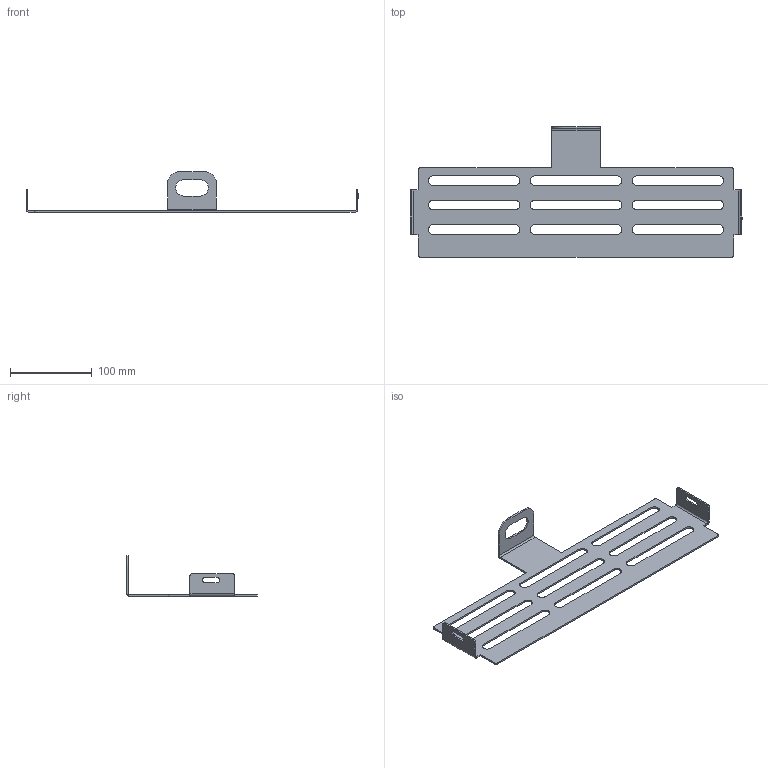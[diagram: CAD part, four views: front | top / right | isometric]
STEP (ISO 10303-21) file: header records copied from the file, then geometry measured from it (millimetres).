
FILE_DESCRIPTION (( 'STEP AP203' ), '1' );
FILE_NAME ('ORW-72.24.20.002 青汶篪赅.STEP', '2025-10-13T13:18:57', ( '理漯彘' ), ( '' ), 'SwSTEP 2.0', 'SolidWorks 2025', '' );
FILE_SCHEMA (( 'CONFIG_CONTROL_DESIGN' ));
Length unit declared in the file: millimetre
Products named in the file (1): ORW-72.24.20.002 Заглушка
Bounding box: 407 x 160 x 50 mm (x, y, z)
Volume: 78584.4 mm3; surface area: 85872.5 mm2
Topology: 1 solids, 1 shells, 100 faces, 270 edges, 172 vertices
Faces by surface type: plane 60, cylinder 40
Entity records: 3245 total; most frequent: DIRECTION 552, CARTESIAN_POINT 543, ORIENTED_EDGE 540, EDGE_CURVE 270, VECTOR 190, LINE 190, AXIS2_PLACEMENT_3D 181, VERTEX_POINT 172
